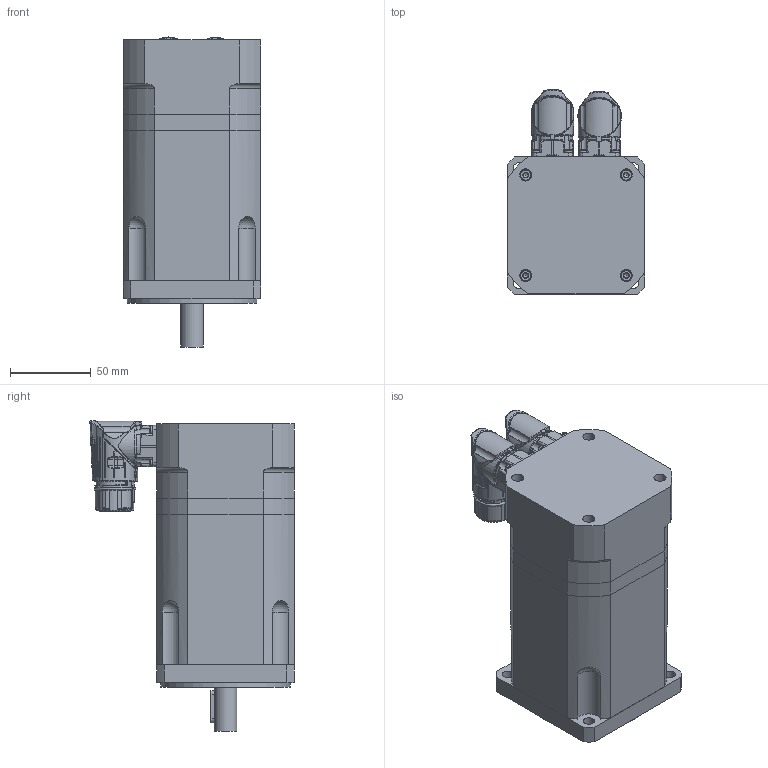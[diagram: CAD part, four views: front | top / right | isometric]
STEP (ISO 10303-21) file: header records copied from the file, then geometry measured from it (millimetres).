
FILE_DESCRIPTION(/* description */ (''),/* implementation_level */ '2;1');
FILE_NAME(/* name */ 'C:\Users\Public\Documents\Autodesk\Inventor LT 2014\Workspace\TG3\DSM5_3x_xxx7\DSM5_32_xxx7.stp',/* time_stamp */ '2016-04-28T10:17:02+02:00',/* author */ ('motion'),/* organization */ (''),/* preprocessor_version */ 'ST-DEVELOPER v15.2',/* originating_system */ 'Autodesk Inventor LT ',/* authorisation */ '');
FILE_SCHEMA (('AUTOMOTIVE_DESIGN { 1 0 10303 214 3 1 1 }'));
Products named in the file (1): DSM5_32_xxx7
Bounding box: 85 x 126.43 x 191.81 mm (x, y, z)
Volume: 1137703.4 mm3; surface area: 134651.6 mm2
Topology: 15 solids, 17 shells, 3061 faces, 7704 edges, 4630 vertices
Faces by surface type: cylinder 880, bspline 853, plane 596, torus 382, cone 229, sphere 121
Full cylindrical faces by diameter (mm): 1.2 x17, 2 x6, 2.15 x6, 2.224 x8, 2.5 x8, 2.7 x8, 3 x1, 4 x8, 4.134 x1, 4.5 x2, 5 x4, 5.5 x3, 5.9 x2, 7 x12, 7.2 x4, 7.5 x4, 14 x1, 15 x1, 15.2 x1, 19.1 x1, 21.6 x1, 22.5 x1, 23 x2, 24.4 x1, 28 x1, 35 x2, 60 x1, 80 x1
Entity records: 189383 total; most frequent: CARTESIAN_POINT 120010, ORIENTED_EDGE 14494, DIRECTION 12705, EDGE_CURVE 7247, AXIS2_PLACEMENT_3D 5470, VERTEX_POINT 4541, EDGE_LOOP 3460, ADVANCED_FACE 3057
